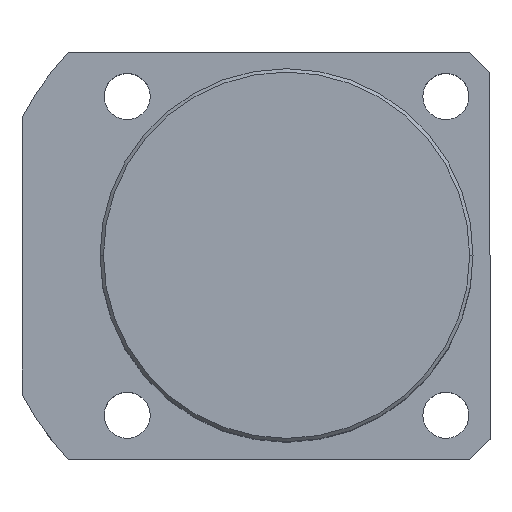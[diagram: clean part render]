
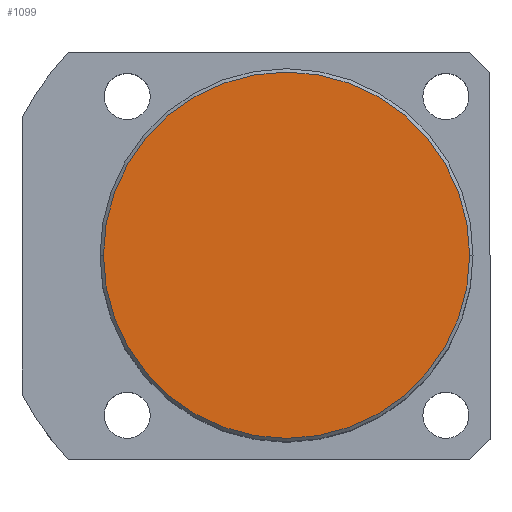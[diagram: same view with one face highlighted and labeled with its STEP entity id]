
A CAD part, top view. The second image highlights one B-rep face of the part: STEP entity #1099.
In plain terms, the highlighted planar face has unit normal (0, 0, 1).
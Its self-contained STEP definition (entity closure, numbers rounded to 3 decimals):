
#226 = CIRCLE ( 'NONE', #719, 27. ) ;
#395 = CARTESIAN_POINT ( 'NONE',  ( 0., 0., 65. ) ) ;
#404 = PLANE ( 'NONE',  #1854 ) ;
#415 = CARTESIAN_POINT ( 'NONE',  ( 27., 0., 65. ) ) ;
#505 = EDGE_CURVE ( 'NONE', #1688, #1197, #226, .T. ) ;
#507 = CARTESIAN_POINT ( 'NONE',  ( 0., 0., 65. ) ) ;
#698 = DIRECTION ( 'NONE',  ( 1., 0., 0. ) ) ;
#719 = AXIS2_PLACEMENT_3D ( 'NONE', #1703, #823, #1863 ) ;
#725 = ORIENTED_EDGE ( 'NONE', *, *, #1509, .T. ) ;
#813 = ORIENTED_EDGE ( 'NONE', *, *, #505, .T. ) ;
#823 = DIRECTION ( 'NONE',  ( 0., 0., 1. ) ) ;
#935 = EDGE_LOOP ( 'NONE', ( #813, #725 ) ) ;
#1092 = FACE_OUTER_BOUND ( 'NONE', #935, .T. ) ;
#1099 = ADVANCED_FACE ( 'NONE', ( #1092 ), #404, .T. ) ;
#1197 = VERTEX_POINT ( 'NONE', #415 ) ;
#1483 = DIRECTION ( 'NONE',  ( 1., 0., 0. ) ) ;
#1509 = EDGE_CURVE ( 'NONE', #1197, #1688, #1893, .T. ) ;
#1513 = CARTESIAN_POINT ( 'NONE',  ( -27., 0., 65. ) ) ;
#1621 = AXIS2_PLACEMENT_3D ( 'NONE', #507, #1847, #698 ) ;
#1623 = DIRECTION ( 'NONE',  ( 0., 0., 1. ) ) ;
#1688 = VERTEX_POINT ( 'NONE', #1513 ) ;
#1703 = CARTESIAN_POINT ( 'NONE',  ( 0., 0., 65. ) ) ;
#1847 = DIRECTION ( 'NONE',  ( 0., 0., 1. ) ) ;
#1854 = AXIS2_PLACEMENT_3D ( 'NONE', #395, #1623, #1483 ) ;
#1863 = DIRECTION ( 'NONE',  ( 1., 0., 0. ) ) ;
#1893 = CIRCLE ( 'NONE', #1621, 27. ) ;
